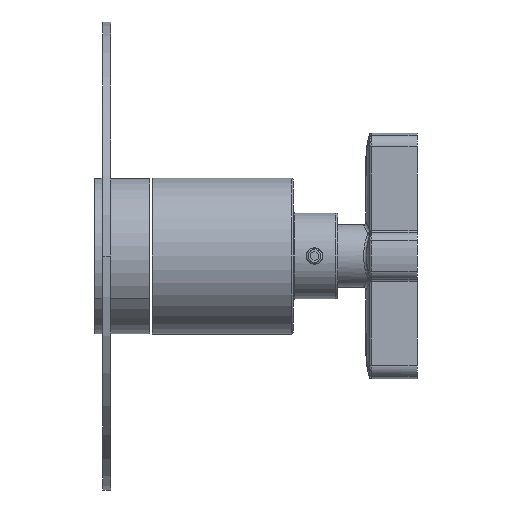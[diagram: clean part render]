
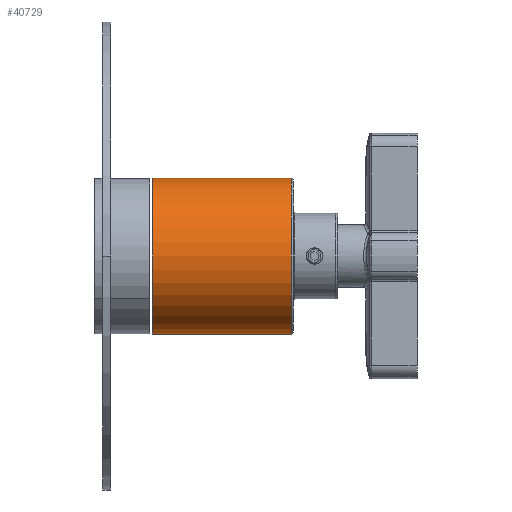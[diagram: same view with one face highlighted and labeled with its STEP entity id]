
A CAD part, front view. The second image highlights one B-rep face of the part: STEP entity #40729.
In plain terms, the highlighted cylindrical face has radius 20 mm (diameter 40 mm), a partial arc.
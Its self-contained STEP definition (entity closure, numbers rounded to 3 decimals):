
#660 = LINE ( 'NONE', #15981, #17455 ) ;
#1429 = VECTOR ( 'NONE', #18938, 1000. ) ;
#2099 = ORIENTED_EDGE ( 'NONE', *, *, #31150, .T. ) ;
#2868 = ORIENTED_EDGE ( 'NONE', *, *, #41420, .F. ) ;
#4395 = DIRECTION ( 'NONE',  ( -1., 0., 0. ) ) ;
#4794 = VERTEX_POINT ( 'NONE', #17505 ) ;
#7109 = DIRECTION ( 'NONE',  ( -1., 0., 0. ) ) ;
#8805 = DIRECTION ( 'NONE',  ( -1., 0., 0. ) ) ;
#8835 = VERTEX_POINT ( 'NONE', #10029 ) ;
#10029 = CARTESIAN_POINT ( 'NONE',  ( 0., 0., -20. ) ) ;
#10379 = LINE ( 'NONE', #25490, #1429 ) ;
#10573 = EDGE_LOOP ( 'NONE', ( #2868, #2099, #21974, #30456 ) ) ;
#10909 = CIRCLE ( 'NONE', #24663, 20. ) ;
#13195 = VERTEX_POINT ( 'NONE', #24613 ) ;
#15981 = CARTESIAN_POINT ( 'NONE',  ( -3.987, 0., 20. ) ) ;
#17455 = VECTOR ( 'NONE', #26031, 1000. ) ;
#17505 = CARTESIAN_POINT ( 'NONE',  ( 35.5, 0., -20. ) ) ;
#18938 = DIRECTION ( 'NONE',  ( -1., 0., 0. ) ) ;
#19953 = EDGE_CURVE ( 'NONE', #8835, #13195, #24185, .T. ) ;
#21808 = AXIS2_PLACEMENT_3D ( 'NONE', #24386, #4395, #27833 ) ;
#21974 = ORIENTED_EDGE ( 'NONE', *, *, #34180, .T. ) ;
#24185 = CIRCLE ( 'NONE', #21808, 20. ) ;
#24386 = CARTESIAN_POINT ( 'NONE',  ( 0., 0., 0. ) ) ;
#24570 = CARTESIAN_POINT ( 'NONE',  ( 35.5, 0., 20. ) ) ;
#24613 = CARTESIAN_POINT ( 'NONE',  ( 0., 0., 20. ) ) ;
#24663 = AXIS2_PLACEMENT_3D ( 'NONE', #28826, #8805, #32188 ) ;
#25490 = CARTESIAN_POINT ( 'NONE',  ( -3.987, 0., -20. ) ) ;
#26031 = DIRECTION ( 'NONE',  ( -1., 0., 0. ) ) ;
#26454 = VERTEX_POINT ( 'NONE', #24570 ) ;
#27833 = DIRECTION ( 'NONE',  ( 0., 0., 1. ) ) ;
#28826 = CARTESIAN_POINT ( 'NONE',  ( 35.5, 0., 0. ) ) ;
#30456 = ORIENTED_EDGE ( 'NONE', *, *, #19953, .F. ) ;
#30519 = DIRECTION ( 'NONE',  ( 0., 0., 1. ) ) ;
#31150 = EDGE_CURVE ( 'NONE', #4794, #26454, #10909, .T. ) ;
#31869 = CYLINDRICAL_SURFACE ( 'NONE', #41548, 20. ) ;
#32188 = DIRECTION ( 'NONE',  ( 0., 0., 1. ) ) ;
#32883 = FACE_OUTER_BOUND ( 'NONE', #10573, .T. ) ;
#34180 = EDGE_CURVE ( 'NONE', #26454, #13195, #660, .T. ) ;
#37133 = CARTESIAN_POINT ( 'NONE',  ( -3.987, 0., 0. ) ) ;
#40729 = ADVANCED_FACE ( 'NONE', ( #32883 ), #31869, .T. ) ;
#41420 = EDGE_CURVE ( 'NONE', #4794, #8835, #10379, .T. ) ;
#41548 = AXIS2_PLACEMENT_3D ( 'NONE', #37133, #7109, #30519 ) ;
